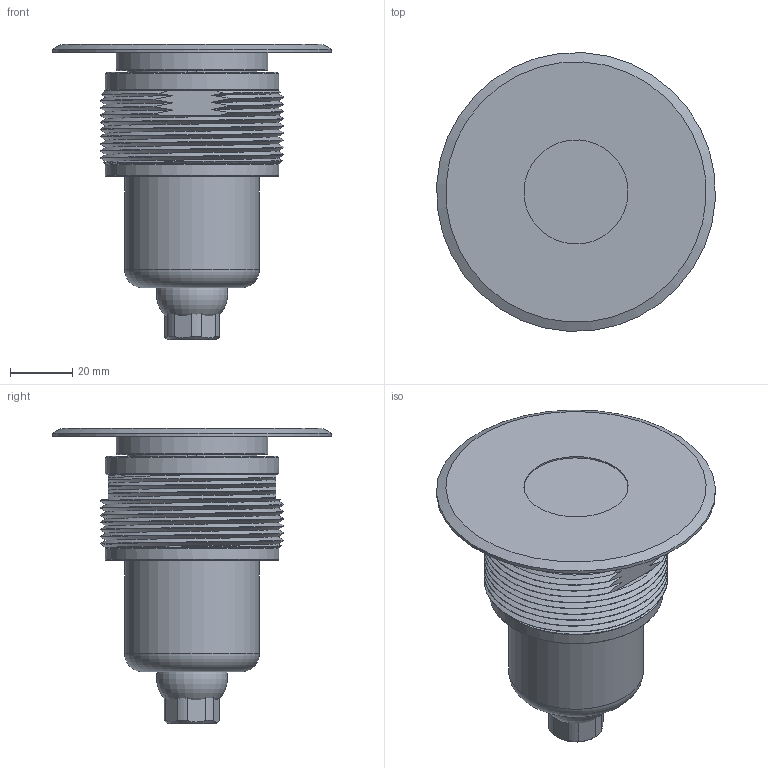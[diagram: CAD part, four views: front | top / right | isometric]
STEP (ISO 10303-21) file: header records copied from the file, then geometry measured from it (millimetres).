
FILE_DESCRIPTION(/* description */ ('Alibre Inc.'),/* implementation_level */ '2;1');
FILE_NAME(/* name */ 'export-510A1F85-AE54-4775-BF88-EC99FA59E7CC',/* time_stamp */ '2025-04-09T09:09:16+02:00',/* author */ (''),/* organization */ (''),/* preprocessor_version */ 'ST-DEVELOPER v17',/* originating_system */ 'Alibre',/* authorisation */ '');
FILE_SCHEMA (('CONFIG_CONTROL_DESIGN'));
Length unit declared in the file: millimetre
Products named in the file (13): Emile Maurin | 230003X6
Bounding box: 89.84 x 89.84 x 95.2 mm (x, y, z)
Volume: 102135.1 mm3; surface area: 63381.4 mm2
Topology: 14 solids, 14 shells, 411 faces, 983 edges, 632 vertices
Faces by surface type: plane 116, cylinder 115, cone 100, bspline 57, torus 23
Full cylindrical faces by diameter (mm): 2.013 x4, 2.4 x4, 2.5 x4, 3 x8, 4 x4, 6 x4, 8.5 x1, 8.7 x1, 10.75 x1, 10.9 x1, 12 x2, 13 x1, 14 x1, 16.4 x1, 17.4 x1, 32 x1, 33.6 x1, 35 x1, 35.5 x2, 37 x2, 37.5 x2, 40 x3, 40.5 x2, 40.6 x1, 43.5 x1, 44 x1, 46 x2, 49 x1, 56 x2, 90 x1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
Entity records: 52401 total; most frequent: CARTESIAN_POINT 44944, ORIENTED_EDGE 1290, DIRECTION 961, EDGE_CURVE 642, FACE_BOUND 494, EDGE_LOOP 493, VERTEX_POINT 477, AXIS2_PLACEMENT_3D 470
